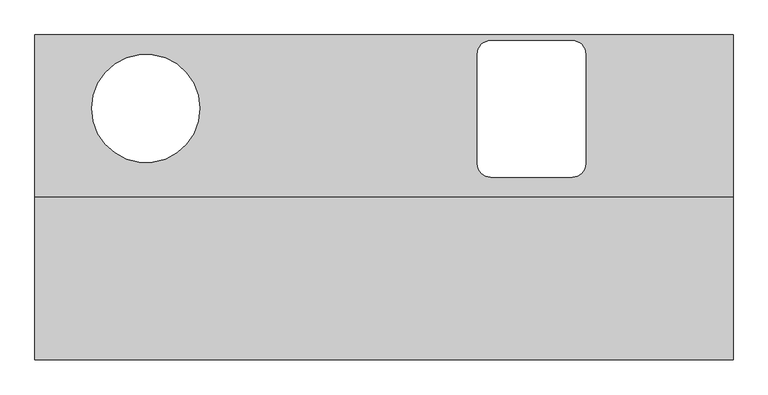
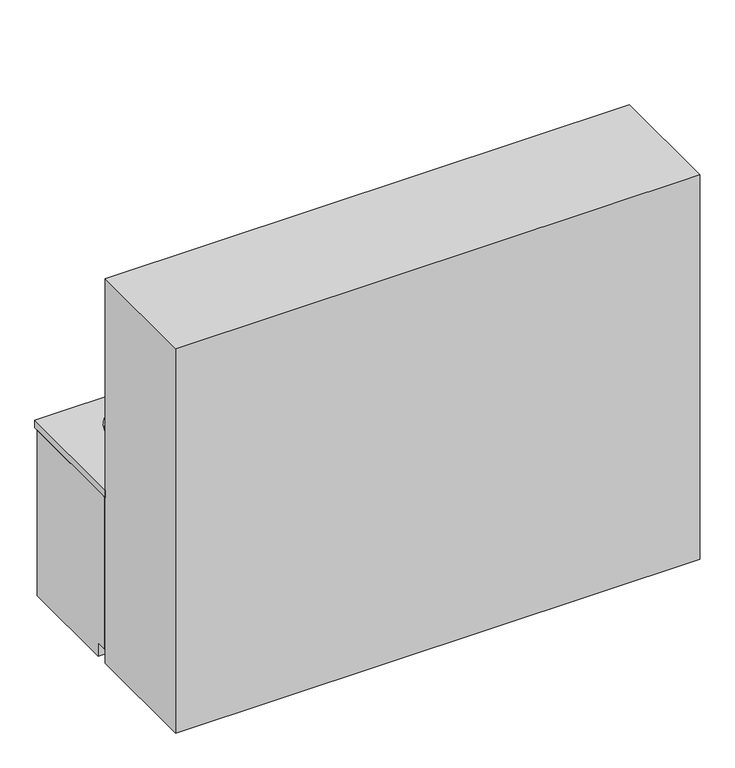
"""IFC4 building model written with IfcOpenShell, lengths in millimetres: proxy geometry, BIMHealth-Worktop_Endoscope_Smaller-LOD2A-v1 : BIMHealth-Worktop_Endoscope_Smaller-LOD2A-v1."""

from ifc_helpers import new_model, si_unit, point, frame, origin, origin_with_axes, place, context, project, spatial, polyline, circle_curve, ellipse_curve, trimmed, outline, extrude, faceted_brep, source, transform, mapped, element, save
from ifc_brep_helpers import plane_surface, revolved_surface, extruded_surface, advanced_brep


def generic_models_c0ddf919(model_context):
    return source(origin(), model_context, "Body", "SolidModel", [
        extrude(outline(polyline([(2580.0, -600.0), (2580.0, -1200.0), (0.0, -1200.0), (0.0, -600.0), (2580.0, -600.0)])), origin_with_axes(), (0.0, 0.0, 1.0), 2000.0),
        faceted_brep([(25.0, -20.0, 860.0), (25.0, -580.0, 860.0), (25.0, -580.0, 80.0), (25.0, -530.0, 80.0), (25.0, -530.0, 0.0), (25.0, -20.0, 0.0), (0.0, -20.0, 860.0), (0.0, -20.0, 0.0), (0.0, -540.0, 0.0), (0.0, -540.0, 70.0), (0.0, -590.0, 70.0), (0.0, -590.0, 860.0), (90.0, -590.0, 860.0), (90.0, -580.0, 860.0), (90.0, -530.0, 0.0), (90.0, -540.0, 0.0), (90.0, -580.0, 80.0), (90.0, -590.0, 70.0), (90.0, -540.0, 70.0), (90.0, -530.0, 80.0)], [[[0, 1, 2, 3, 4, 5]], [[6, 7, 8, 9, 10, 11]], [[1, 0, 6, 11, 12, 13]], [[0, 5, 7, 6]], [[5, 4, 14, 15, 8, 7]], [[16, 13, 12, 17, 18, 15, 14, 19]], [[13, 16, 2, 1]], [[17, 12, 11, 10]], [[18, 17, 10, 9]], [[15, 18, 9, 8]], [[19, 14, 4, 3]], [[16, 19, 3, 2]]]),
        faceted_brep([(2555.0, -20.0, 860.0), (2555.0, -20.0, 0.0), (2555.0, -530.0, 0.0), (2555.0, -530.0, 80.0), (2555.0, -580.0, 80.0), (2555.0, -580.0, 860.0), (2580.0, -590.0, 860.0), (2580.0, -590.0, 70.0), (2580.0, -540.0, 70.0), (2580.0, -540.0, 0.0), (2580.0, -20.0, 0.0), (2580.0, -20.0, 860.0), (2490.0, -540.0, 0.0), (2490.0, -530.0, 0.0), (2490.0, -580.0, 860.0), (2490.0, -590.0, 860.0), (2490.0, -580.0, 80.0), (2490.0, -530.0, 80.0), (2490.0, -540.0, 70.0), (2490.0, -590.0, 70.0)], [[[0, 1, 2, 3, 4, 5]], [[6, 7, 8, 9, 10, 11]], [[11, 10, 1, 0]], [[10, 9, 12, 13, 2, 1]], [[6, 11, 0, 5, 14, 15]], [[16, 17, 13, 12, 18, 19, 15, 14]], [[16, 14, 5, 4]], [[7, 6, 15, 19]], [[8, 7, 19, 18]], [[9, 8, 18, 12]], [[13, 17, 3, 2]], [[17, 16, 4, 3]]]),
        advanced_brep(
        [(2580.0, 0.0, 900.0), (0.0, 0.0, 900.0), (0.0, -600.0, 900.0), (2580.0, -600.0, 900.0), (1985.0, -20.601282, 900.0), (2035.0, -70.601282, 900.0), (2035.0, -475.0252369, 900.0), (1985.0, -525.0252369, 900.0), (1685.0, -525.0252369, 900.0), (1635.0, -475.0252369, 900.0), (1635.0, -70.601282, 900.0), (1685.0, -20.601282, 900.0), (610.0, -271.5135665, 900.0), (210.0, -271.5135665, 900.0), (2580.0, 0.0, 860.0), (2580.0, -600.0, 860.0), (0.0, -600.0, 860.0), (0.0, 0.0, 860.0), (2035.0, -70.601282, 860.0), (1985.0, -20.601282, 860.0), (1685.0, -20.601282, 860.0), (1635.0, -70.601282, 860.0), (1635.0, -475.0252369, 860.0), (1685.0, -525.0252369, 860.0), (1985.0, -525.0252369, 860.0), (2035.0, -475.0252369, 860.0), (210.0, -271.5135665, 860.0), (610.0, -271.5135665, 860.0)],
        [
            (0, 1),
            (1, 2),
            (2, 3),
            (3, 0),
            (4, 5, circle_curve(frame((1985.0, -70.601282, 900.0), z_axis=(0.0, 0.0, -1.0), x_axis=(0.0, -1.0, 0.0)), 50.0)),
            (5, 6),
            (6, 7, circle_curve(frame((1985.0, -475.0252369, 900.0), z_axis=(0.0, 0.0, -1.0), x_axis=(0.0, -1.0, 0.0)), 50.0)),
            (7, 8),
            (8, 9, circle_curve(frame((1685.0, -475.0252369, 900.0), z_axis=(0.0, 0.0, -1.0), x_axis=(0.0, -1.0, 0.0)), 50.0)),
            (9, 10),
            (10, 11, circle_curve(frame((1685.0, -70.601282, 900.0), z_axis=(0.0, 0.0, -1.0), x_axis=(0.0, -1.0, 0.0)), 50.0)),
            (11, 4),
            (12, 13, ellipse_curve(frame((410.0, -271.5135665, 900.0), z_axis=(0.0, 0.0, -1.0), x_axis=(-1.0, 0.0, 0.0)), 200.0, 200.0)),
            (13, 12, ellipse_curve(frame((410.0, -271.5135665, 900.0), z_axis=(0.0, 0.0, -1.0), x_axis=(-1.0, 0.0, 0.0)), 200.0, 200.0)),
            (14, 15),
            (15, 16),
            (16, 17),
            (17, 14),
            (18, 19, circle_curve(frame((1985.0, -70.601282, 860.0), z_axis=(0.0, 0.0, 1.0), x_axis=(0.0, -1.0, 0.0)), 50.0)),
            (19, 20),
            (20, 21, circle_curve(frame((1685.0, -70.601282, 860.0), z_axis=(0.0, 0.0, 1.0), x_axis=(0.0, -1.0, 0.0)), 50.0)),
            (21, 22),
            (22, 23, circle_curve(frame((1685.0, -475.0252369, 860.0), z_axis=(0.0, 0.0, 1.0), x_axis=(0.0, -1.0, 0.0)), 50.0)),
            (23, 24),
            (24, 25, circle_curve(frame((1985.0, -475.0252369, 860.0), z_axis=(0.0, 0.0, 1.0), x_axis=(0.0, -1.0, 0.0)), 50.0)),
            (25, 18),
            (26, 27, circle_curve(frame((410.0, -271.5135665, 860.0), z_axis=(0.0, 0.0, 1.0), x_axis=(-1.0, 0.0, 0.0)), 200.0)),
            (27, 26, circle_curve(frame((410.0, -271.5135665, 860.0), z_axis=(0.0, 0.0, 1.0), x_axis=(-1.0, 0.0, 0.0)), 200.0)),
            (0, 14),
            (17, 1),
            (16, 2),
            (15, 3),
            (4, 19),
            (18, 5),
            (25, 6),
            (24, 7),
            (23, 8),
            (22, 9),
            (21, 10),
            (20, 11),
            (26, 13),
            (12, 27),
        ],
        [
            plane_surface(frame((0.0, 0.0, 900.0), z_axis=(0.0, 0.0, 1.0), x_axis=(-1.0, 0.0, 0.0))),
            plane_surface(frame((0.0, 0.0, 860.0), z_axis=(0.0, 0.0, -1.0), x_axis=(1.0, 0.0, 0.0))),
            plane_surface(frame((2580.0, 0.0, 900.0), z_axis=(0.0, 1.0, 0.0), x_axis=(0.0, 0.0, -1.0))),
            plane_surface(frame((0.0, 0.0, 900.0), z_axis=(-1.0, 0.0, 0.0), x_axis=(0.0, 0.0, -1.0))),
            plane_surface(frame((0.0, -600.0, 900.0), z_axis=(0.0, -1.0, 0.0), x_axis=(0.0, 0.0, -1.0))),
            plane_surface(frame((2580.0, -600.0, 900.0), z_axis=(1.0, 0.0, 0.0), x_axis=(0.0, 0.0, -1.0))),
            revolved_surface(polyline([(1985.0, -120.601282, 860.0), (1985.0, -120.601282, 900.0)]), (1985.0, -70.601282, 900.0), (0.0, 0.0, -1.0)),
            plane_surface(frame((2035.0, -70.601282, 600.0), z_axis=(-1.0, 0.0, 0.0), x_axis=(0.0, 0.0, 1.0))),
            revolved_surface(polyline([(1985.0, -525.0252369, 860.0), (1985.0, -525.0252369, 900.0)]), (1985.0, -475.0252369, 900.0), (0.0, 0.0, -1.0)),
            plane_surface(frame((1985.0, -525.0252369, 600.0), z_axis=(0.0, 1.0, 0.0), x_axis=(0.0, 0.0, 1.0))),
            revolved_surface(polyline([(1685.0, -525.0252369, 860.0), (1685.0, -525.0252369, 900.0)]), (1685.0, -475.0252369, 900.0), (0.0, 0.0, -1.0)),
            plane_surface(frame((1635.0, -475.0252369, 600.0), z_axis=(1.0, 0.0, 0.0), x_axis=(0.0, 0.0, 1.0))),
            revolved_surface(polyline([(1685.0, -120.601282, 860.0), (1685.0, -120.601282, 900.0)]), (1685.0, -70.601282, 900.0), (0.0, 0.0, -1.0)),
            plane_surface(frame((1685.0, -20.601282, 600.0), z_axis=(0.0, -1.0, 0.0), x_axis=(0.0, 0.0, 1.0))),
            extruded_surface(trimmed(ellipse_curve(frame((410.0, -271.5135665, 900.0), z_axis=(0.0, 0.0, -1.0), x_axis=(-1.0, 0.0, 0.0)), 200.0, 200.0), [point((610.0, -271.5135665, 900.0))], [point((210.0, -271.5135665, 900.0))], True, "CARTESIAN"), (0.0, 0.0, 40.0), 40.0),
            extruded_surface(trimmed(ellipse_curve(frame((410.0, -271.5135665, 900.0), z_axis=(0.0, 0.0, -1.0), x_axis=(-1.0, 0.0, 0.0)), 200.0, 200.0), [point((210.0, -271.5135665, 900.0))], [point((610.0, -271.5135665, 900.0))], True, "CARTESIAN"), (0.0, 0.0, 40.0), 40.0),
        ],
        [
            (0, [[1, 2, 3, 4], [5, 6, 7, 8, 9, 10, 11, 12], [13, 14]]),
            (1, [[15, 16, 17, 18], [19, 20, 21, 22, 23, 24, 25, 26], [27, 28]]),
            (2, [[-1, 29, -18, 30]]),
            (3, [[-2, -30, -17, 31]]),
            (4, [[-3, -31, -16, 32]]),
            (5, [[-4, -32, -15, -29]]),
            (6, [[33, -19, 34, -5]]),
            (7, [[-34, -26, 35, -6]]),
            (8, [[-35, -25, 36, -7]]),
            (9, [[-36, -24, 37, -8]]),
            (10, [[-37, -23, 38, -9]]),
            (11, [[-38, -22, 39, -10]]),
            (12, [[-39, -21, 40, -11]]),
            (13, [[-33, -12, -40, -20]]),
            (14, [[41, -13, 42, -27]]),
            (15, [[-41, -28, -42, -14]]),
        ],
    ),
    ])


if __name__ == "__main__":
    model = new_model("IFC4")
    model_context = context("Model", 3, world=origin())
    ifc_project = project(units=[si_unit("LENGTHUNIT", "METRE", prefix="MILLI")], contexts=[model_context])
    site = spatial("IfcSite", under=ifc_project)
    building = spatial("IfcBuilding", under=site)
    placement = place(None, origin())
    generic_models_shape = generic_models_c0ddf919(model_context)
    element("IfcBuildingElementProxy", 1, Name="BIMHealth-Worktop_Endoscope_Smaller-LOD2A-v1 : BIMHealth-Worktop_Endoscope_Smaller-LOD2A-v1", ObjectType="BIMHealth-Worktop_Endoscope_Smaller-LOD2A-v1 : BIMHealth-Worktop_Endoscope_Smaller-LOD2A-v1", at=placement, inside=building, context=model_context, shape_type="MappedRepresentation", body=[
        mapped(generic_models_shape, transform((0.0, 0.0, 0.0), x_axis=(1.0, 0.0, 0.0), y_axis=(0.0, 1.0, 0.0), z_axis=(0.0, 0.0, 1.0))),
    ])
    save(model, "model.ifc")
